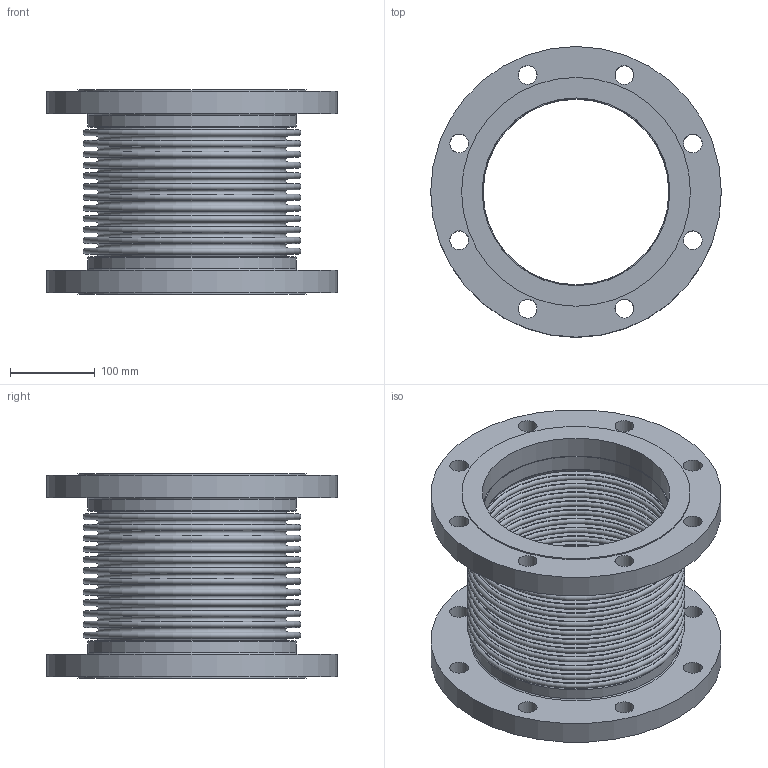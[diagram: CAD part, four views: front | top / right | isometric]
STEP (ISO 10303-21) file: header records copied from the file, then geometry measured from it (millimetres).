
FILE_DESCRIPTION(/* description */ ('EXPANSION JOINT,SINGLE, FLANGED ENDS,8 INCH NOMINAL','CAx-IF Rec.Pracs.---Representation and Presentation of Product Manufacturing Information (PMI)---4.0---2014-10-13'),/* implementation_level */ '2;1');
FILE_NAME(/* name */ 'US-08-12-150L-FLANGED ENDS.stp',/* time_stamp */ '2026-07-31T17:13:40-05:00',/* author */ ('Guadalupe'),/* organization */ (''),/* preprocessor_version */ 'ST-DEVELOPER v20.1',/* originating_system */ 'Autodesk Inventor 2026',/* authorisation */ '');
FILE_SCHEMA (('AP242_MANAGED_MODEL_BASED_3D_ENGINEERING_MIM_LF { 1 0 10303 442 2 1 4 }'));
Length unit declared in the file: inch
Products named in the file (3): 08-150L; 08-150L-02; 08-150L-01
Assembly tree (3 placements, depth 2):
  08-150L
    08-150L-02  x2
    08-150L-01
Bounding box: 342.9 x 342.9 x 241.3 mm (x, y, z)
Volume: 3458879.4 mm3; surface area: 1215939.5 mm2
Topology: 5 solids, 5 shells, 144 faces, 246 edges, 164 vertices
Faces by surface type: plane 62, torus 54, cylinder 28
Full cylindrical faces by diameter (mm): 22.225 x16, 219.075 x2, 220.904 x2, 221.488 x2, 246.126 x2, 270.002 x2, 342.9 x2
Entity records: 3294 total; most frequent: DIRECTION 682, CARTESIAN_POINT 489, ORIENTED_EDGE 408, AXIS2_PLACEMENT_3D 333, EDGE_CURVE 204, EDGE_LOOP 200, CIRCLE 188, VERTEX_POINT 136
